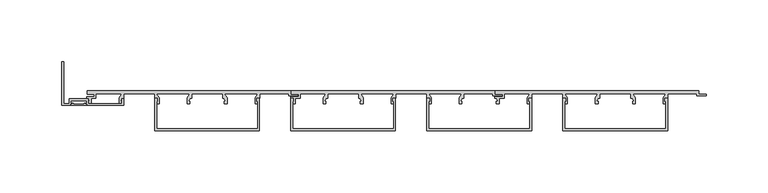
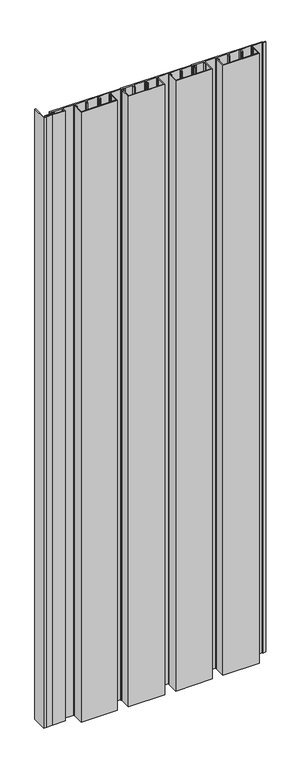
"""IFC4 building model written with IfcOpenShell, lengths in millimetres: proxy geometry, A_GEN_LINE_Main Base_Wide Cap_LTrim : A_GEN_LINE_Main Base_Wide Cap_LTrim."""

from ifc_helpers import new_model, si_unit, origin, origin_with_axes, place, context, project, spatial, polyline, outline, extrude, source, transform, mapped, element, save


def generic_models_731e9286(model_context):
    return source(origin(), model_context, "Body", "SweptSolid", [
        extrude(outline(polyline([(-13.0106499, -11.8818695), (-13.0106499, -10.9050009), (-12.1106499, -10.9050009), (-12.1106499, -10.0050009), (-11.2354943, -10.0050009), (-11.2354943, -10.9050009), (-2.1892046, -10.9050009), (-2.1892046, -10.0050009), (-1.314049, -10.0050009), (-1.314049, -10.9050009), (-0.414049, -10.9050009), (-0.414049, -11.8818695), (-13.0106499, -11.8818695)])), origin_with_axes(), (0.0, 0.0, 1.0), 1500.0),
        extrude(outline(polyline([(-0.414049, -10.9050009), (-1.314049, -10.9050009), (-1.314049, -10.0050009), (-0.414049, -10.0050009), (-0.414049, -7.8818695), (-13.0306499, -7.8818695), (-13.0306499, -10.0050009), (-12.1306499, -10.0050009), (-12.1306499, -10.9050009), (-13.0306499, -10.9050009), (-13.0306499, -11.8818695), (-20.3575953, -11.8818695), (-20.3575953, 23.3746551), (-18.9575953, 23.3746551), (-18.9575953, -10.4818695), (-14.4306499, -10.4818695), (-14.4306499, -6.4818695), (0.985951, -6.4818695), (0.985951, -10.4818695), (28.1839928, -10.4818695), (28.1839928, -6.4818695), (29.5839928, -6.4818695), (29.5839928, -11.8818695), (-0.414049, -11.8818695), (-0.414049, -10.9050009)])), origin_with_axes(), (0.0, 0.0, 1.0), 1500.0),
        extrude(outline(polyline([(384.7727156, -32.2007192), (384.7727156, -6.1), (386.9217225, -6.1), (386.9217225, -8.3419727), (386.1727156, -8.5826662), (386.1727156, -30.8007192), (467.99573, -30.8007192), (467.99573, -8.5826662), (467.2467231, -8.3419727), (467.2467231, -6.1), (469.39573, -6.1), (469.39573, -32.2007192), (384.7727156, -32.2007192)])), origin_with_axes(), (0.0, 0.0, 1.0), 1500.0),
        extrude(outline(polyline([(274.7732149, -32.2007192), (274.7732149, -6.1), (276.9222219, -6.1), (276.9222219, -8.3419727), (276.1732149, -8.5826662), (276.1732149, -30.8007192), (357.9962294, -30.8007192), (357.9962294, -8.5826662), (357.2472224, -8.3419727), (357.2472224, -6.1), (359.3962294, -6.1), (359.3962294, -32.2007192), (274.7732149, -32.2007192)])), origin_with_axes(), (0.0, 0.0, 1.0), 1500.0),
        extrude(outline(polyline([(164.7737143, -32.2007192), (164.7737143, -6.1), (166.9227213, -6.1), (166.9227213, -8.3419727), (166.1737143, -8.5826662), (166.1737143, -30.8007192), (247.9967288, -30.8007192), (247.9967288, -8.5826662), (247.2477218, -8.3419727), (247.2477218, -6.1), (249.3967288, -6.1), (249.3967288, -32.2007192), (164.7737143, -32.2007192)])), origin_with_axes(), (0.0, 0.0, 1.0), 1500.0),
        extrude(outline(polyline([(54.7742137, -32.2007192), (54.7742137, -6.1), (56.9232207, -6.1), (56.9232207, -8.3419727), (56.1742137, -8.5826662), (56.1742137, -30.8007192), (137.9972282, -30.8007192), (137.9972282, -8.5826662), (137.2482212, -8.3419727), (137.2482212, -6.1), (139.3972282, -6.1), (139.3972282, -32.2007192), (54.7742137, -32.2007192)])), origin_with_axes(), (0.0, 0.0, 1.0), 1500.0),
        extrude(outline(polyline([(330.0, 0.0), (494.5761088, 0.0), (494.5761088, -2.85), (500.5761088, -2.85), (500.5761088, -4.2), (493.0577537, -4.2), (493.0577537, -2.4), (469.5881862, -2.4), (469.5881862, -6.1021884), (468.4732128, -6.1021884), (466.884647, -8.4994005), (468.1465809, -8.4994005), (468.1465809, -10.4818695), (465.9440548, -10.4818695), (465.9773381, -5.5238337), (468.0474159, -2.4), (441.1309809, -2.4), (443.2301021, -5.6343123), (443.2301021, -10.4818695), (441.027576, -10.4818695), (441.027576, -8.4994005), (442.2895099, -8.4994005), (440.7009441, -6.1021884), (439.5859707, -6.1021884), (439.5859707, -2.4), (414.5854713, -2.4), (414.5854713, -6.1021884), (413.4704978, -6.1021884), (411.881932, -8.4994005), (413.1438659, -8.4994005), (413.1438659, -10.4818695), (410.9413399, -10.4818695), (410.9413399, -5.5740595), (413.0447009, -2.4), (386.1304815, -2.4), (388.2296027, -5.6343123), (388.2296027, -10.4818695), (386.0270766, -10.4818695), (386.0270766, -8.4994005), (387.2890105, -8.4994005), (385.7004447, -6.1021884), (384.5854713, -6.1021884), (384.5854713, -2.4), (359.5849719, -2.4), (359.5849719, -6.1021884), (358.4699984, -6.1021884), (356.8814326, -8.4994005), (358.1433665, -8.4994005), (358.1433665, -10.4818695), (355.9408405, -10.4818695), (355.9408405, -5.6343123), (358.0399616, -2.4), (337.2195527, -2.4), (337.2195527, -6.1), (333.2291033, -6.1), (333.2291033, -10.4818695), (331.0265772, -10.4818695), (331.0265772, -8.4994005), (332.2885111, -8.4994005), (330.6999453, -6.1021884), (329.6137598, -6.1021884), (329.6137598, -4.9), (336.0195527, -4.9), (336.0195527, -2.7), (330.0, -2.7), (330.0, 0.0)])), origin_with_axes(), (0.0, 0.0, 1.0), 1500.0),
        extrude(outline(polyline([(165.0, 0.0), (329.5761088, 0.0), (329.5761088, -2.85), (335.5761088, -2.85), (335.5761088, -4.2), (328.0577537, -4.2), (328.0577537, -2.4), (304.5881862, -2.4), (304.5881862, -6.1021884), (303.4732128, -6.1021884), (301.884647, -8.4994005), (303.1465809, -8.4994005), (303.1465809, -10.4818695), (300.9440548, -10.4818695), (300.9773381, -5.5238337), (303.0474159, -2.4), (276.1309809, -2.4), (278.2301021, -5.6343123), (278.2301021, -10.4818695), (276.027576, -10.4818695), (276.027576, -8.4994005), (277.2895099, -8.4994005), (275.7009441, -6.1021884), (274.5859707, -6.1021884), (274.5859707, -2.4), (249.5854713, -2.4), (249.5854713, -6.1021884), (248.4704978, -6.1021884), (246.881932, -8.4994005), (248.1438659, -8.4994005), (248.1438659, -10.4818695), (245.9413399, -10.4818695), (245.9413399, -5.5740595), (248.0447009, -2.4), (221.1304815, -2.4), (223.2296027, -5.6343123), (223.2296027, -10.4818695), (221.0270766, -10.4818695), (221.0270766, -8.4994005), (222.2890105, -8.4994005), (220.7004447, -6.1021884), (219.5854713, -6.1021884), (219.5854713, -2.4), (194.5849719, -2.4), (194.5849719, -6.1021884), (193.4699984, -6.1021884), (191.8814326, -8.4994005), (193.1433665, -8.4994005), (193.1433665, -10.4818695), (190.9408405, -10.4818695), (190.9408405, -5.6343123), (193.0399616, -2.4), (172.2195527, -2.4), (172.2195527, -6.1), (168.2291033, -6.1), (168.2291033, -10.4818695), (166.0265772, -10.4818695), (166.0265772, -8.4994005), (167.2885111, -8.4994005), (165.6999453, -6.1021884), (164.6137598, -6.1021884), (164.6137598, -4.9), (171.0195527, -4.9), (171.0195527, -2.7), (165.0, -2.7), (165.0, 0.0)])), origin_with_axes(), (0.0, 0.0, 1.0), 1500.0),
        extrude(outline(polyline([(0.0, 0.0), (164.5761088, 0.0), (164.5761088, -2.85), (170.5761088, -2.85), (170.5761088, -4.2), (163.0577537, -4.2), (163.0577537, -2.4), (139.5881862, -2.4), (139.5881862, -6.1021884), (138.4732128, -6.1021884), (136.884647, -8.4994005), (138.1465809, -8.4994005), (138.1465809, -10.4818695), (135.9440548, -10.4818695), (135.9773381, -5.5238337), (138.0474159, -2.4), (111.1309809, -2.4), (113.2301021, -5.6343123), (113.2301021, -10.4818695), (111.027576, -10.4818695), (111.027576, -8.4994005), (112.2895099, -8.4994005), (110.7009441, -6.1021884), (109.5859707, -6.1021884), (109.5859707, -2.4), (84.5854713, -2.4), (84.5854713, -6.1021884), (83.4704978, -6.1021884), (81.881932, -8.4994005), (83.1438659, -8.4994005), (83.1438659, -10.4818695), (80.9413399, -10.4818695), (80.9413399, -5.5740595), (83.0447009, -2.4), (56.1304815, -2.4), (58.2296027, -5.6343123), (58.2296027, -10.4818695), (56.0270766, -10.4818695), (56.0270766, -8.4994005), (57.2890105, -8.4994005), (55.7004447, -6.1021884), (54.5854713, -6.1021884), (54.5854713, -2.4), (29.5849719, -2.4), (29.5849719, -6.1021884), (28.4699984, -6.1021884), (26.8814326, -8.4994005), (28.1433665, -8.4994005), (28.1433665, -10.4818695), (25.9408405, -10.4818695), (25.9408405, -5.6343123), (28.0399616, -2.4), (7.2195527, -2.4), (7.2195527, -6.1), (3.2291033, -6.1), (3.2291033, -10.4818695), (1.0265772, -10.4818695), (1.0265772, -8.4994005), (2.2885111, -8.4994005), (0.6999453, -6.1021884), (-0.3862402, -6.1021884), (-0.3862402, -4.9), (6.0195527, -4.9), (6.0195527, -2.7), (0.0, -2.7), (0.0, 0.0)])), origin_with_axes(), (0.0, 0.0, 1.0), 1500.0),
    ])


if __name__ == "__main__":
    model = new_model("IFC4")
    model_context = context("Model", 3, world=origin())
    ifc_project = project(units=[si_unit("LENGTHUNIT", "METRE", prefix="MILLI")], contexts=[model_context])
    site = spatial("IfcSite", under=ifc_project)
    building = spatial("IfcBuilding", under=site)
    placement = place(None, origin())
    generic_models_shape = generic_models_731e9286(model_context)
    element("IfcBuildingElementProxy", 1, Name="A_GEN_LINE_Main Base_Wide Cap_LTrim : A_GEN_LINE_Main Base_Wide Cap_LTrim", ObjectType="A_GEN_LINE_Main Base_Wide Cap_LTrim : A_GEN_LINE_Main Base_Wide Cap_LTrim", at=placement, inside=building, context=model_context, shape_type="MappedRepresentation", body=[
        mapped(generic_models_shape, transform((0.0, 0.0, 0.0), x_axis=(1.0, 0.0, 0.0), y_axis=(0.0, 1.0, 0.0), z_axis=(0.0, 0.0, 1.0))),
    ])
    save(model, "model.ifc")
